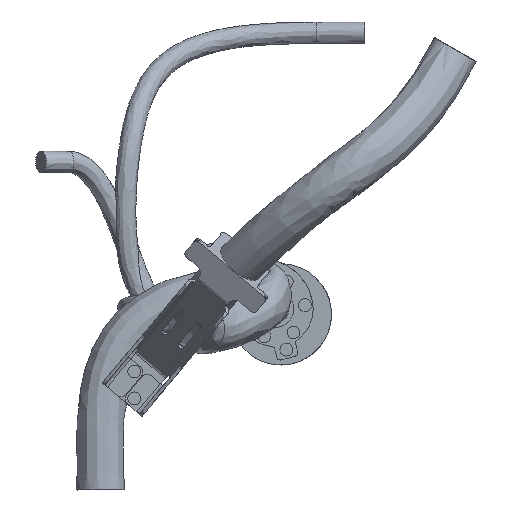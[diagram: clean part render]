
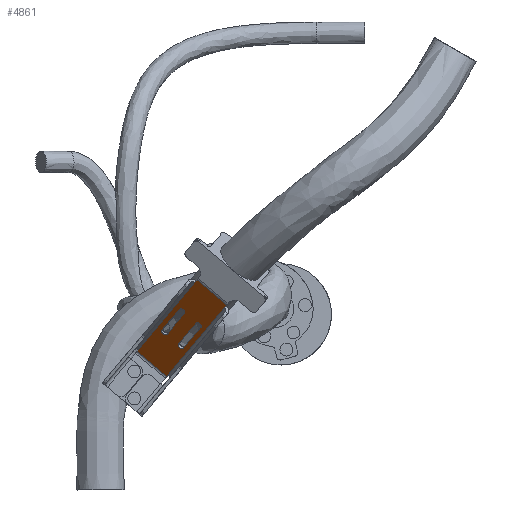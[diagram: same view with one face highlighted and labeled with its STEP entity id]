
A CAD part, front view. The second image highlights one B-rep face of the part: STEP entity #4861.
In plain terms, the highlighted planar face has unit normal (-0.455, -0.707, -0.542).
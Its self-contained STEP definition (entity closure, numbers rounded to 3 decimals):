
#19 = VERTEX_POINT ( 'NONE', #2559 ) ;
#339 = CARTESIAN_POINT ( 'NONE',  ( 74.877, -234.284, 498.509 ) ) ;
#782 = ORIENTED_EDGE ( 'NONE', *, *, #9834, .T. ) ;
#805 = CARTESIAN_POINT ( 'NONE',  ( 51.502, -203.879, 478.431 ) ) ;
#949 = DIRECTION ( 'NONE',  ( 0.455, 0.707, 0.542 ) ) ;
#956 = ORIENTED_EDGE ( 'NONE', *, *, #12705, .T. ) ;
#1096 = AXIS2_PLACEMENT_3D ( 'NONE', #5028, #14433, #13076 ) ;
#1109 = PLANE ( 'NONE',  #2350 ) ;
#1236 = FACE_OUTER_BOUND ( 'NONE', #2047, .T. ) ;
#1299 = ORIENTED_EDGE ( 'NONE', *, *, #10114, .T. ) ;
#1437 = CARTESIAN_POINT ( 'NONE',  ( 90.198, -234.284, 485.653 ) ) ;
#1495 = CARTESIAN_POINT ( 'NONE',  ( 92.496, -234.284, 483.725 ) ) ;
#1632 = VECTOR ( 'NONE', #8510, 1000. ) ;
#1675 = EDGE_CURVE ( 'NONE', #2870, #6137, #7937, .T. ) ;
#1950 = DIRECTION ( 'NONE',  ( -0.455, 0.707, -0.542 ) ) ;
#2047 = EDGE_LOOP ( 'NONE', ( #13892, #10320, #2568, #5037, #7279, #15060, #5923, #1299 ) ) ;
#2152 = DIRECTION ( 'NONE',  ( 0.455, -0.707, 0.542 ) ) ;
#2209 = CARTESIAN_POINT ( 'NONE',  ( 106.106, -259.033, 504.612 ) ) ;
#2276 = CIRCLE ( 'NONE', #6892, 3. ) ;
#2318 = VECTOR ( 'NONE', #6192, 1000. ) ;
#2350 = AXIS2_PLACEMENT_3D ( 'NONE', #10451, #4690, #10600 ) ;
#2365 = DIRECTION ( 'NONE',  ( 0.455, -0.707, 0.542 ) ) ;
#2530 = FACE_BOUND ( 'NONE', #5226, .T. ) ;
#2535 = VERTEX_POINT ( 'NONE', #3964 ) ;
#2557 = CARTESIAN_POINT ( 'NONE',  ( 79.08, -203.879, 455.291 ) ) ;
#2559 = CARTESIAN_POINT ( 'NONE',  ( 107.272, -290.64, 544.894 ) ) ;
#2568 = ORIENTED_EDGE ( 'NONE', *, *, #11417, .F. ) ;
#2716 = DIRECTION ( 'NONE',  ( 0.455, -0.707, 0.542 ) ) ;
#2825 = LINE ( 'NONE', #339, #8809 ) ;
#2870 = VERTEX_POINT ( 'NONE', #2557 ) ;
#2888 = DIRECTION ( 'NONE',  ( -0.455, 0.707, -0.542 ) ) ;
#3097 = ORIENTED_EDGE ( 'NONE', *, *, #6313, .T. ) ;
#3577 = LINE ( 'NONE', #14060, #6231 ) ;
#3645 = CARTESIAN_POINT ( 'NONE',  ( 52.866, -206., 480.056 ) ) ;
#3725 = CARTESIAN_POINT ( 'NONE',  ( 79.473, -234.284, 494.652 ) ) ;
#3831 = CARTESIAN_POINT ( 'NONE',  ( 52.866, -206., 480.056 ) ) ;
#3964 = CARTESIAN_POINT ( 'NONE',  ( 134.849, -290.64, 521.754 ) ) ;
#3982 = CARTESIAN_POINT ( 'NONE',  ( 77.175, -234.284, 496.581 ) ) ;
#4245 = LINE ( 'NONE', #13592, #14450 ) ;
#4553 = VERTEX_POINT ( 'NONE', #13606 ) ;
#4651 = VERTEX_POINT ( 'NONE', #3645 ) ;
#4659 = EDGE_CURVE ( 'NONE', #5019, #4553, #7157, .T. ) ;
#4690 = DIRECTION ( 'NONE',  ( -0.455, -0.707, -0.542 ) ) ;
#4785 = VECTOR ( 'NONE', #8483, 1000. ) ;
#4796 = EDGE_CURVE ( 'NONE', #4651, #13993, #9426, .T. ) ;
#4847 = CARTESIAN_POINT ( 'NONE',  ( 132.713, -287.317, 519.208 ) ) ;
#4861 = ADVANCED_FACE ( 'NONE', ( #11888, #2530, #1236 ), #1109, .T. ) ;
#4897 = CARTESIAN_POINT ( 'NONE',  ( 154., -290.64, 505.684 ) ) ;
#4908 = LINE ( 'NONE', #8330, #10968 ) ;
#5019 = VERTEX_POINT ( 'NONE', #8349 ) ;
#5020 = EDGE_CURVE ( 'NONE', #2870, #11141, #9682, .T. ) ;
#5028 = CARTESIAN_POINT ( 'NONE',  ( 93.083, -259.033, 515.539 ) ) ;
#5037 = ORIENTED_EDGE ( 'NONE', *, *, #14107, .T. ) ;
#5226 = EDGE_LOOP ( 'NONE', ( #782, #9084, #11831, #11328 ) ) ;
#5923 = ORIENTED_EDGE ( 'NONE', *, *, #4796, .F. ) ;
#6042 = VERTEX_POINT ( 'NONE', #12491 ) ;
#6080 = CIRCLE ( 'NONE', #12452, 3. ) ;
#6137 = VERTEX_POINT ( 'NONE', #9112 ) ;
#6192 = DIRECTION ( 'NONE',  ( -0.766, 0., 0.643 ) ) ;
#6231 = VECTOR ( 'NONE', #2365, 1000. ) ;
#6313 = EDGE_CURVE ( 'NONE', #4553, #10393, #2276, .T. ) ;
#6387 = DIRECTION ( 'NONE',  ( -0.455, 0.707, -0.542 ) ) ;
#6672 = ORIENTED_EDGE ( 'NONE', *, *, #14169, .T. ) ;
#6892 = AXIS2_PLACEMENT_3D ( 'NONE', #3982, #7562, #14675 ) ;
#7157 = LINE ( 'NONE', #3725, #14542 ) ;
#7279 = ORIENTED_EDGE ( 'NONE', *, *, #15097, .T. ) ;
#7562 = DIRECTION ( 'NONE',  ( 0.455, 0.707, 0.542 ) ) ;
#7937 = LINE ( 'NONE', #12638, #13455 ) ;
#8274 = LINE ( 'NONE', #4847, #8740 ) ;
#8330 = CARTESIAN_POINT ( 'NONE',  ( 50.938, -203., 477.758 ) ) ;
#8349 = CARTESIAN_POINT ( 'NONE',  ( 95.381, -259.033, 513.611 ) ) ;
#8380 = DIRECTION ( 'NONE',  ( -0.455, 0.707, -0.542 ) ) ;
#8402 = LINE ( 'NONE', #4897, #2318 ) ;
#8483 = DIRECTION ( 'NONE',  ( 0.455, -0.707, 0.542 ) ) ;
#8510 = DIRECTION ( 'NONE',  ( -0.766, 0., 0.643 ) ) ;
#8740 = VECTOR ( 'NONE', #12957, 1000. ) ;
#8809 = VECTOR ( 'NONE', #12167, 1000. ) ;
#8993 = VECTOR ( 'NONE', #2716, 1000. ) ;
#9084 = ORIENTED_EDGE ( 'NONE', *, *, #11537, .T. ) ;
#9112 = CARTESIAN_POINT ( 'NONE',  ( 80.444, -206., 456.916 ) ) ;
#9399 = DIRECTION ( 'NONE',  ( -0.455, 0.707, -0.542 ) ) ;
#9426 = LINE ( 'NONE', #3831, #4785 ) ;
#9550 = VECTOR ( 'NONE', #2888, 1000. ) ;
#9682 = LINE ( 'NONE', #11992, #1632 ) ;
#9710 = ORIENTED_EDGE ( 'NONE', *, *, #4659, .T. ) ;
#9808 = VERTEX_POINT ( 'NONE', #12073 ) ;
#9834 = EDGE_CURVE ( 'NONE', #6042, #14175, #12881, .T. ) ;
#10114 = EDGE_CURVE ( 'NONE', #4651, #11141, #4908, .T. ) ;
#10192 = AXIS2_PLACEMENT_3D ( 'NONE', #1495, #12913, #9399 ) ;
#10320 = ORIENTED_EDGE ( 'NONE', *, *, #1675, .T. ) ;
#10393 = VERTEX_POINT ( 'NONE', #11322 ) ;
#10411 = LINE ( 'NONE', #10793, #9550 ) ;
#10451 = CARTESIAN_POINT ( 'NONE',  ( 97.666, -203., 438.548 ) ) ;
#10581 = DIRECTION ( 'NONE',  ( -0.455, 0.707, -0.542 ) ) ;
#10600 = DIRECTION ( 'NONE',  ( -0.455, 0.707, -0.542 ) ) ;
#10793 = CARTESIAN_POINT ( 'NONE',  ( 50.938, -203., 477.758 ) ) ;
#10898 = CIRCLE ( 'NONE', #1096, 3. ) ;
#10917 = CARTESIAN_POINT ( 'NONE',  ( 90.198, -234.284, 485.653 ) ) ;
#10968 = VECTOR ( 'NONE', #10581, 1000. ) ;
#11107 = CARTESIAN_POINT ( 'NONE',  ( 105.136, -287.317, 542.349 ) ) ;
#11141 = VERTEX_POINT ( 'NONE', #805 ) ;
#11322 = CARTESIAN_POINT ( 'NONE',  ( 74.877, -234.284, 498.509 ) ) ;
#11328 = ORIENTED_EDGE ( 'NONE', *, *, #12895, .T. ) ;
#11388 = CARTESIAN_POINT ( 'NONE',  ( 108.404, -259.033, 502.684 ) ) ;
#11417 = EDGE_CURVE ( 'NONE', #13666, #6137, #8274, .T. ) ;
#11537 = EDGE_CURVE ( 'NONE', #14175, #13722, #12060, .T. ) ;
#11831 = ORIENTED_EDGE ( 'NONE', *, *, #11998, .T. ) ;
#11888 = FACE_BOUND ( 'NONE', #13039, .T. ) ;
#11992 = CARTESIAN_POINT ( 'NONE',  ( 98.231, -203.879, 439.221 ) ) ;
#11998 = EDGE_CURVE ( 'NONE', #13722, #9808, #6080, .T. ) ;
#12060 = LINE ( 'NONE', #10917, #8993 ) ;
#12073 = CARTESIAN_POINT ( 'NONE',  ( 110.702, -259.033, 500.755 ) ) ;
#12167 = DIRECTION ( 'NONE',  ( 0.455, -0.707, 0.542 ) ) ;
#12452 = AXIS2_PLACEMENT_3D ( 'NONE', #11388, #949, #1950 ) ;
#12491 = CARTESIAN_POINT ( 'NONE',  ( 94.794, -234.284, 481.797 ) ) ;
#12540 = EDGE_CURVE ( 'NONE', #19, #13993, #10411, .T. ) ;
#12638 = CARTESIAN_POINT ( 'NONE',  ( 78.515, -203., 454.618 ) ) ;
#12705 = EDGE_CURVE ( 'NONE', #10393, #14568, #2825, .T. ) ;
#12881 = CIRCLE ( 'NONE', #10192, 3. ) ;
#12895 = EDGE_CURVE ( 'NONE', #9808, #6042, #4245, .T. ) ;
#12913 = DIRECTION ( 'NONE',  ( 0.455, 0.707, 0.542 ) ) ;
#12957 = DIRECTION ( 'NONE',  ( -0.455, 0.707, -0.542 ) ) ;
#13039 = EDGE_LOOP ( 'NONE', ( #3097, #956, #6672, #9710 ) ) ;
#13076 = DIRECTION ( 'NONE',  ( -0.455, 0.707, -0.542 ) ) ;
#13340 = CARTESIAN_POINT ( 'NONE',  ( 90.785, -259.033, 517.468 ) ) ;
#13455 = VECTOR ( 'NONE', #2152, 1000. ) ;
#13592 = CARTESIAN_POINT ( 'NONE',  ( 94.794, -234.284, 481.797 ) ) ;
#13606 = CARTESIAN_POINT ( 'NONE',  ( 79.473, -234.284, 494.652 ) ) ;
#13666 = VERTEX_POINT ( 'NONE', #13906 ) ;
#13722 = VERTEX_POINT ( 'NONE', #2209 ) ;
#13892 = ORIENTED_EDGE ( 'NONE', *, *, #5020, .F. ) ;
#13906 = CARTESIAN_POINT ( 'NONE',  ( 132.713, -287.317, 519.208 ) ) ;
#13993 = VERTEX_POINT ( 'NONE', #11107 ) ;
#14060 = CARTESIAN_POINT ( 'NONE',  ( 78.515, -203., 454.618 ) ) ;
#14107 = EDGE_CURVE ( 'NONE', #13666, #2535, #3577, .T. ) ;
#14169 = EDGE_CURVE ( 'NONE', #14568, #5019, #10898, .T. ) ;
#14175 = VERTEX_POINT ( 'NONE', #1437 ) ;
#14433 = DIRECTION ( 'NONE',  ( 0.455, 0.707, 0.542 ) ) ;
#14450 = VECTOR ( 'NONE', #6387, 1000. ) ;
#14542 = VECTOR ( 'NONE', #8380, 1000. ) ;
#14568 = VERTEX_POINT ( 'NONE', #13340 ) ;
#14675 = DIRECTION ( 'NONE',  ( -0.455, 0.707, -0.542 ) ) ;
#15060 = ORIENTED_EDGE ( 'NONE', *, *, #12540, .T. ) ;
#15097 = EDGE_CURVE ( 'NONE', #2535, #19, #8402, .T. ) ;
